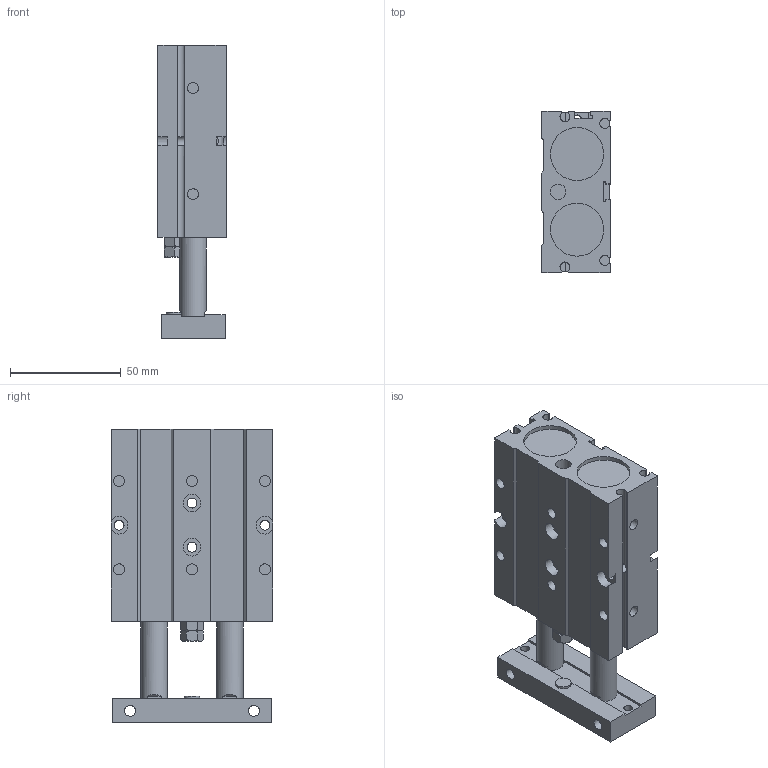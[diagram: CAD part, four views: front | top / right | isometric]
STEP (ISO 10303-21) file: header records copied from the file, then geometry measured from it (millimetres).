
FILE_DESCRIPTION((''),'2;1');
FILE_NAME('I:\3D電子目錄\氣缸\TD\TD25\TD25\TD25x25.stp','2007-08-06T09:53:37',('Administrator'),(''),'Autodesk Inventor 2008','Autodesk Inventor 2008','');
FILE_SCHEMA(('AUTOMOTIVE_DESIGN { 1 0 10303 214 1 1 1 1 }'));
Length unit declared in the file: millimetre
Products named in the file (1): TD25X25
Bounding box: 31 x 73 x 133 mm (x, y, z)
Volume: 205193.5 mm3; surface area: 41840.2 mm2
Topology: 1 solids, 3 shells, 197 faces, 494 edges, 324 vertices
Faces by surface type: plane 132, cylinder 52, cone 7, bspline 4, torus 2
Full cylindrical faces by diameter (mm): 4 x2, 4.5 x4, 5 x10, 7 x2, 8 x4, 10 x2, 11 x2, 12 x4, 24 x4
Entity records: 6021 total; most frequent: CARTESIAN_POINT 1449, DIRECTION 915, ORIENTED_EDGE 878, EDGE_CURVE 439, VERTEX_POINT 314, AXIS2_PLACEMENT_3D 312, VECTOR 291, LINE 291
